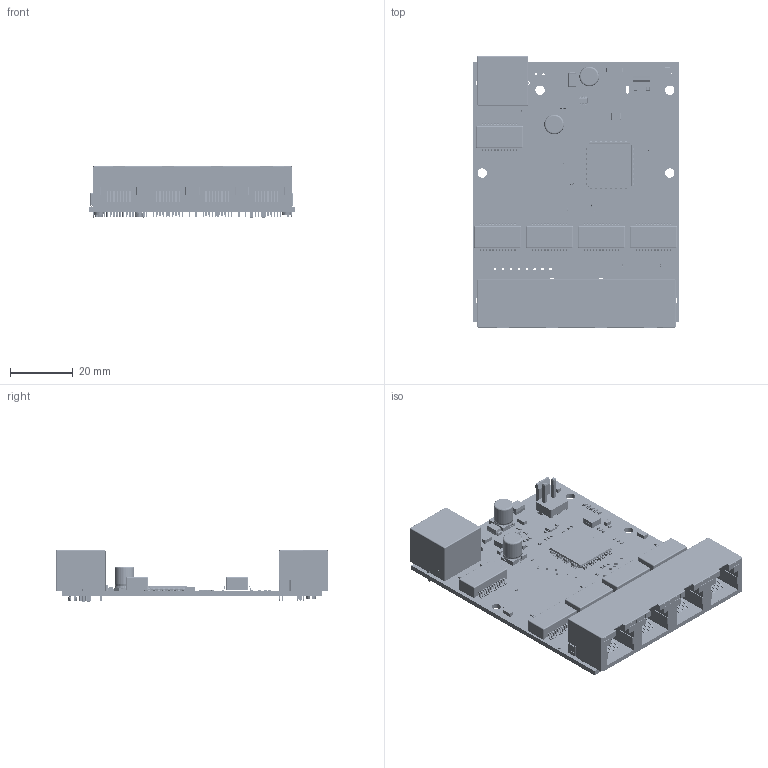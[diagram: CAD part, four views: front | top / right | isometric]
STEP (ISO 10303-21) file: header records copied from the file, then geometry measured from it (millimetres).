
FILE_DESCRIPTION(('Designed by EasyEDA Pro'),'2;1');
FILE_NAME('Open CASCADE Shape Model','2024-01-20T10:21:38',('Author'),( 'Open CASCADE'),'Open CASCADE STEP processor 7.6','Open CASCADE 7.6' ,'Unknown');
FILE_SCHEMA(('AUTOMOTIVE_DESIGN { 1 0 10303 214 1 1 1 1 }'));
Length unit declared in the file: millimetre
Products named in the file (129): PCBModel; Board; LED3; LED0603N; COMPOUND; LED2; LED12; LED5; LED6; LED4; C3; C0805; SOLID; C5; C51; C8; 1206; C7; C6; C54; C52; C9; C97; C0402; C96; C95; C94; C93; C56; C48; C4; C2; C127; C116; C110; C109; C101; C100; C130; C99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
Assembly tree (201 placements, depth 4):
  PCBModel
    Board
    LED3
      LED0603N
        COMPOUND
    LED2
      LED0603N
        COMPOUND
    LED12
      LED0603N
        COMPOUND
    LED5
      LED0603N
        COMPOUND
    LED6
      LED0603N
        COMPOUND
    LED4
      LED0603N
        COMPOUND
    C3
      C0805
        SOLID
    C5
      C0805
        SOLID
    C51
      C0805
        SOLID
    C8
      1206
        SOLID
    C7
      1206
        SOLID
    C6
      1206
        SOLID
    C54
      1206
        SOLID
    C52
      1206
        SOLID
    C9
      1206
        SOLID
    C97
      C0402
        SOLID
    C96
      C0402
        SOLID
    C95
      C0402
        SOLID
    C94
      C0402
        SOLID
    C93
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Bounding box: 65.97 x 87.04 x 16.7 mm (x, y, z)
Volume: 22380.9 mm3; surface area: 32270 mm2
Topology: 215 solids, 215 shells, 36850 faces, 99570 edges, 65033 vertices
Faces by surface type: plane 21291, bspline 10016, cylinder 4772, sphere 646, torus 111, cone 10, revolution 4
Full cylindrical faces by diameter (mm): 0.003 x3, 0.7 x2, 0.85 x4, 0.889 x8, 0.9 x56, 1.6 x2, 2.54 x1, 3.3 x4
Entity records: 426436 total; most frequent: CARTESIAN_POINT 98075, ORIENTED_EDGE 53942, DIRECTION 41576, EDGE_CURVE 26971, LINE 19202, VECTOR 19202, VERTEX_POINT 17679, AXIS2_PLACEMENT_3D 11185
